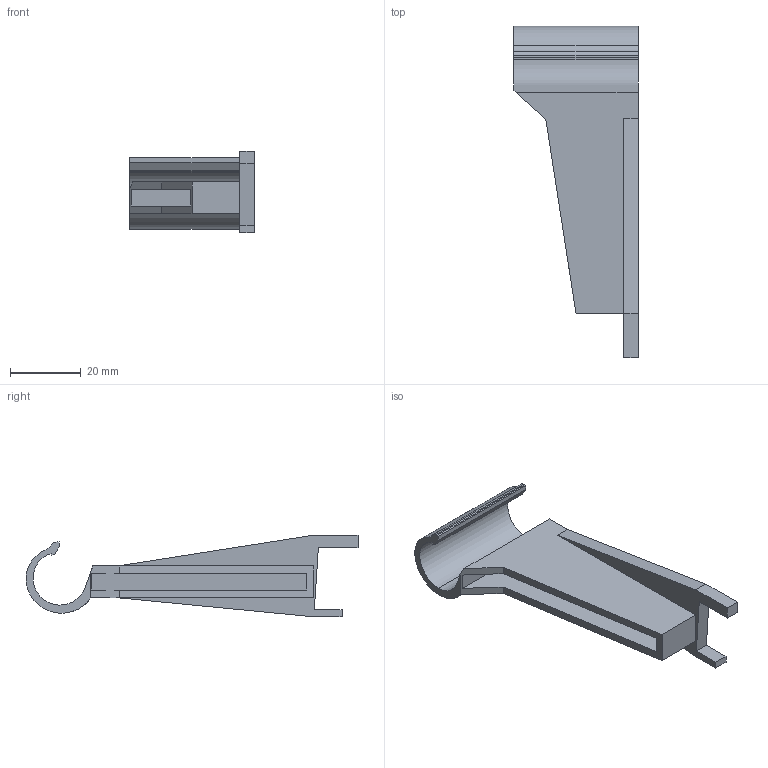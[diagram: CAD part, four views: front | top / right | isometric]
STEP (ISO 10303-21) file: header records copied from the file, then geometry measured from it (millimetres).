
FILE_DESCRIPTION (( 'STEP AP214' ), '1' );
FILE_NAME ('_Variowing Glashalter vornne re.step', '2010-07-14T13:34:21', ( 'grass' ), ( '' ), 'SwSTEP 2.0', 'SolidWorks 2010', '' );
FILE_SCHEMA (( 'AUTOMOTIVE_DESIGN' ));
Length unit declared in the file: millimetre
Products named in the file (1): _Variowing Glashalter vornne re
Bounding box: 35 x 93.55 x 23 mm (x, y, z)
Volume: 13487.1 mm3; surface area: 10319.2 mm2
Topology: 1 solids, 1 shells, 39 faces, 111 edges, 74 vertices
Faces by surface type: plane 30, cylinder 9
Entity records: 1297 total; most frequent: CARTESIAN_POINT 228, ORIENTED_EDGE 222, DIRECTION 208, EDGE_CURVE 111, LINE 92, VECTOR 92, VERTEX_POINT 74, AXIS2_PLACEMENT_3D 58
